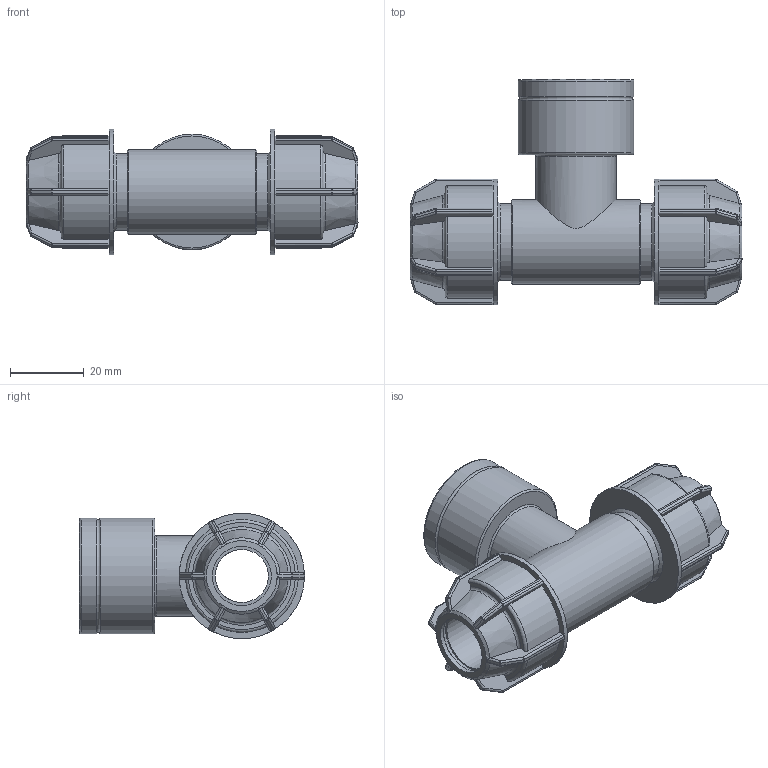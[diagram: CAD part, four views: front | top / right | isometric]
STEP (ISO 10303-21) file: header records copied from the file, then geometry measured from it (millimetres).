
FILE_DESCRIPTION(/* description */ ('PLASSON IRRIFIT TEE FEMALE ADAPTOR 16-3/4"-16'),/* implementation_level */ '2;1');
FILE_NAME(/* name */ 'C:\Dropbox\KIMPROJECTS-Inventor\99-16-3568-Processing\Silver+MF ISRAEL\041407\041407016007.ipt.stp',/* time_stamp */ '2018-04-09T12:59:49+03:00',/* author */ ('KIM'),/* organization */ (''),/* preprocessor_version */ 'ST-DEVELOPER v15.6',/* originating_system */ 'Autodesk Inventor 2015',/* authorisation */ '');
FILE_SCHEMA (('AUTOMOTIVE_DESIGN { 1 0 10303 214 3 1 1 }'));
Length unit declared in the file: millimetre
Products named in the file (1): 041407016007
Bounding box: 90 x 61 x 34 mm (x, y, z)
Volume: 38983.6 mm3; surface area: 20909.6 mm2
Topology: 1 solids, 1 shells, 420 faces, 991 edges, 570 vertices
Faces by surface type: plane 199, cylinder 123, sphere 48, torus 32, cone 18
Full cylindrical faces by diameter (mm): 14.4 x1, 16 x4, 16.882 x1, 20.8 x2, 21.705 x1, 22.88 x1, 24.117 x1, 31.352 x2, 34 x2
Entity records: 12210 total; most frequent: CARTESIAN_POINT 3200, DIRECTION 1898, ORIENTED_EDGE 1840, EDGE_CURVE 920, AXIS2_PLACEMENT_3D 768, VERTEX_POINT 546, EDGE_LOOP 460, FACE_OUTER_BOUND 416
